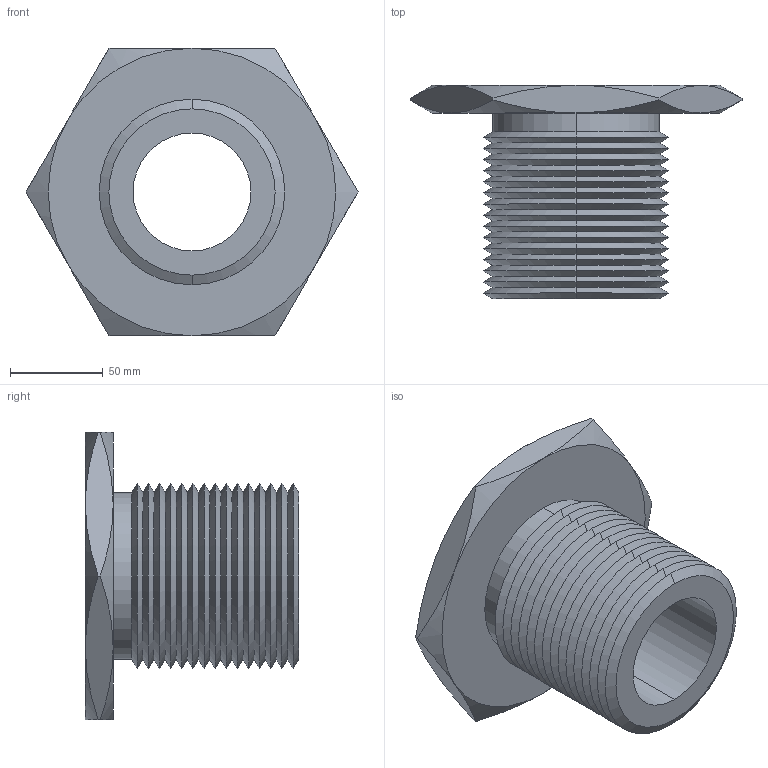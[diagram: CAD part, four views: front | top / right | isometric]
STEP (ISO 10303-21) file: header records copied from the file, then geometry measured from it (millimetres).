
FILE_DESCRIPTION (( 'STEP AP203' ), '1' );
FILE_NAME ('63302.W0100_2,50 UNC-4.step', '2013-12-08T11:34:10', ( 'User' ), ( '' ), 'SwSTEP 2.0', 'SolidWorks 2009', '' );
FILE_SCHEMA (( 'CONFIG_CONTROL_DESIGN' ));
Length unit declared in the file: millimetre
Products named in the file (1): 63302.W0100_2,50 UNC-4
Bounding box: 178.98 x 115 x 155 mm (x, y, z)
Volume: 634532.1 mm3; surface area: 120059.7 mm2
Topology: 1 solids, 1 shells, 87 faces, 178 edges, 94 vertices
Faces by surface type: cone 74, plane 9, cylinder 4
Entity records: 2479 total; most frequent: CARTESIAN_POINT 584, DIRECTION 412, ORIENTED_EDGE 356, EDGE_CURVE 178, AXIS2_PLACEMENT_3D 170, VERTEX_POINT 94, EDGE_LOOP 90, ADVANCED_FACE 87
